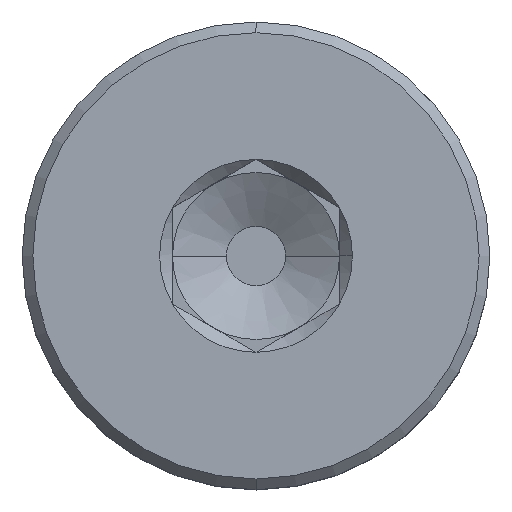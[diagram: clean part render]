
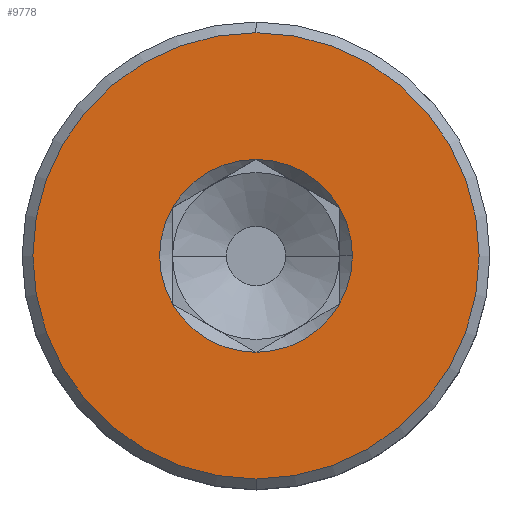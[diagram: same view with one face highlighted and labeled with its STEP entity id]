
A CAD part, top view. The second image highlights one B-rep face of the part: STEP entity #9778.
In plain terms, the highlighted planar face has unit normal (0, 0, 1).
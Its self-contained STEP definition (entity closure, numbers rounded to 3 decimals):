
#302 = ORIENTED_EDGE ( 'NONE', *, *, #3270, .T. ) ;
#303 = ORIENTED_EDGE ( 'NONE', *, *, #3272, .T. ) ;
#304 = ORIENTED_EDGE ( 'NONE', *, *, #3489, .T. ) ;
#305 = ORIENTED_EDGE ( 'NONE', *, *, #3490, .T. ) ;
#306 = ORIENTED_EDGE ( 'NONE', *, *, #3483, .T. ) ;
#307 = ORIENTED_EDGE ( 'NONE', *, *, #3485, .T. ) ;
#308 = ORIENTED_EDGE ( 'NONE', *, *, #3486, .T. ) ;
#309 = ORIENTED_EDGE ( 'NONE', *, *, #3487, .T. ) ;
#310 = ORIENTED_EDGE ( 'NONE', *, *, #3488, .T. ) ;
#1048 = VERTEX_POINT ( 'NONE', #4008 ) ;
#1049 = VERTEX_POINT ( 'NONE', #4009 ) ;
#1050 = VERTEX_POINT ( 'NONE', #4010 ) ;
#1052 = VERTEX_POINT ( 'NONE', #4012 ) ;
#1053 = VERTEX_POINT ( 'NONE', #4013 ) ;
#1054 = VERTEX_POINT ( 'NONE', #4014 ) ;
#1059 = VERTEX_POINT ( 'NONE', #4019 ) ;
#1060 = VERTEX_POINT ( 'NONE', #4020 ) ;
#1061 = VERTEX_POINT ( 'NONE', #4021 ) ;
#3270 = EDGE_CURVE ( 'NONE', #1061, #1060, #5382, .T. ) ;
#3272 = EDGE_CURVE ( 'NONE', #1060, #1061, #5385, .T. ) ;
#3483 = EDGE_CURVE ( 'NONE', #1049, #1048, #6039, .T. ) ;
#3485 = EDGE_CURVE ( 'NONE', #1048, #1059, #6041, .T. ) ;
#3486 = EDGE_CURVE ( 'NONE', #1059, #1050, #6042, .T. ) ;
#3487 = EDGE_CURVE ( 'NONE', #1050, #1052, #6043, .T. ) ;
#3488 = EDGE_CURVE ( 'NONE', #1052, #1053, #6044, .T. ) ;
#3489 = EDGE_CURVE ( 'NONE', #1053, #1054, #6045, .T. ) ;
#3490 = EDGE_CURVE ( 'NONE', #1054, #1049, #6046, .T. ) ;
#4008 = CARTESIAN_POINT ( 'NONE',  ( 1.25, 0.722, 2.8 ) ) ;
#4009 = CARTESIAN_POINT ( 'NONE',  ( 0., 1.443, 2.8 ) ) ;
#4010 = CARTESIAN_POINT ( 'NONE',  ( 1.25, -0.722, 2.8 ) ) ;
#4012 = CARTESIAN_POINT ( 'NONE',  ( 0., -1.443, 2.8 ) ) ;
#4013 = CARTESIAN_POINT ( 'NONE',  ( -1.25, -0.722, 2.8 ) ) ;
#4014 = CARTESIAN_POINT ( 'NONE',  ( -1.25, 0.722, 2.8 ) ) ;
#4019 = CARTESIAN_POINT ( 'NONE',  ( 1.443, 0., 2.8 ) ) ;
#4020 = CARTESIAN_POINT ( 'NONE',  ( 0., 3.34, 2.8 ) ) ;
#4021 = CARTESIAN_POINT ( 'NONE',  ( 0., -3.34, 2.8 ) ) ;
#4535 = EDGE_LOOP ( 'NONE', ( #302, #303 ) ) ;
#4536 = EDGE_LOOP ( 'NONE', ( #304, #305, #306, #307, #308, #309, #310 ) ) ;
#5321 = AXIS2_PLACEMENT_3D ( 'NONE', #5599, #5627, #5628 ) ;
#5322 = AXIS2_PLACEMENT_3D ( 'NONE', #5631, #5632, #5633 ) ;
#5339 = AXIS2_PLACEMENT_3D ( 'NONE', #6278, #6279, #6280 ) ;
#5340 = AXIS2_PLACEMENT_3D ( 'NONE', #6283, #6284, #6285 ) ;
#5341 = AXIS2_PLACEMENT_3D ( 'NONE', #6286, #6287, #6288 ) ;
#5342 = AXIS2_PLACEMENT_3D ( 'NONE', #6289, #6290, #6291 ) ;
#5343 = AXIS2_PLACEMENT_3D ( 'NONE', #6292, #6293, #6294 ) ;
#5344 = AXIS2_PLACEMENT_3D ( 'NONE', #6295, #6296, #6297 ) ;
#5345 = AXIS2_PLACEMENT_3D ( 'NONE', #6298, #6299, #6300 ) ;
#5382 = CIRCLE ( 'NONE', #5321, 3.34 ) ;
#5385 = CIRCLE ( 'NONE', #5322, 3.34 ) ;
#5599 = CARTESIAN_POINT ( 'NONE',  ( 0., 0., 2.8 ) ) ;
#5627 = DIRECTION ( 'NONE',  ( 0., 0., 1. ) ) ;
#5628 = DIRECTION ( 'NONE',  ( 0., 1., 0. ) ) ;
#5631 = CARTESIAN_POINT ( 'NONE',  ( 0., 0., 2.8 ) ) ;
#5632 = DIRECTION ( 'NONE',  ( 0., 0., 1. ) ) ;
#5633 = DIRECTION ( 'NONE',  ( 0., 1., 0. ) ) ;
#6039 = CIRCLE ( 'NONE', #5339, 1.443 ) ;
#6041 = CIRCLE ( 'NONE', #5340, 1.443 ) ;
#6042 = CIRCLE ( 'NONE', #5341, 1.443 ) ;
#6043 = CIRCLE ( 'NONE', #5342, 1.443 ) ;
#6044 = CIRCLE ( 'NONE', #5343, 1.443 ) ;
#6045 = CIRCLE ( 'NONE', #5344, 1.443 ) ;
#6046 = CIRCLE ( 'NONE', #5345, 1.443 ) ;
#6278 = CARTESIAN_POINT ( 'NONE',  ( 0., 0., 2.8 ) ) ;
#6279 = DIRECTION ( 'NONE',  ( 0., 0., -1. ) ) ;
#6280 = DIRECTION ( 'NONE',  ( 1., 0., 0. ) ) ;
#6283 = CARTESIAN_POINT ( 'NONE',  ( 0., 0., 2.8 ) ) ;
#6284 = DIRECTION ( 'NONE',  ( 0., 0., -1. ) ) ;
#6285 = DIRECTION ( 'NONE',  ( 1., 0., 0. ) ) ;
#6286 = CARTESIAN_POINT ( 'NONE',  ( 0., 0., 2.8 ) ) ;
#6287 = DIRECTION ( 'NONE',  ( 0., 0., -1. ) ) ;
#6288 = DIRECTION ( 'NONE',  ( 1., 0., 0. ) ) ;
#6289 = CARTESIAN_POINT ( 'NONE',  ( 0., 0., 2.8 ) ) ;
#6290 = DIRECTION ( 'NONE',  ( 0., 0., -1. ) ) ;
#6291 = DIRECTION ( 'NONE',  ( 1., 0., 0. ) ) ;
#6292 = CARTESIAN_POINT ( 'NONE',  ( 0., 0., 2.8 ) ) ;
#6293 = DIRECTION ( 'NONE',  ( 0., 0., -1. ) ) ;
#6294 = DIRECTION ( 'NONE',  ( 1., 0., 0. ) ) ;
#6295 = CARTESIAN_POINT ( 'NONE',  ( 0., 0., 2.8 ) ) ;
#6296 = DIRECTION ( 'NONE',  ( 0., 0., -1. ) ) ;
#6297 = DIRECTION ( 'NONE',  ( 1., 0., 0. ) ) ;
#6298 = CARTESIAN_POINT ( 'NONE',  ( 0., 0., 2.8 ) ) ;
#6299 = DIRECTION ( 'NONE',  ( 0., 0., -1. ) ) ;
#6300 = DIRECTION ( 'NONE',  ( 1., 0., 0. ) ) ;
#8122 = FACE_OUTER_BOUND ( 'NONE', #4535, .T. ) ;
#8123 = FACE_BOUND ( 'NONE', #4536, .T. ) ;
#8215 = AXIS2_PLACEMENT_3D ( 'NONE', #8270, #8271, #8272 ) ;
#8269 = PLANE ( 'NONE',  #8215 ) ;
#8270 = CARTESIAN_POINT ( 'NONE',  ( 0., 0., 2.8 ) ) ;
#8271 = DIRECTION ( 'NONE',  ( 0., 0., 1. ) ) ;
#8272 = DIRECTION ( 'NONE',  ( 1., 0., 0. ) ) ;
#9778 = ADVANCED_FACE ( 'NONE', ( #8122, #8123 ), #8269, .T. ) ;
